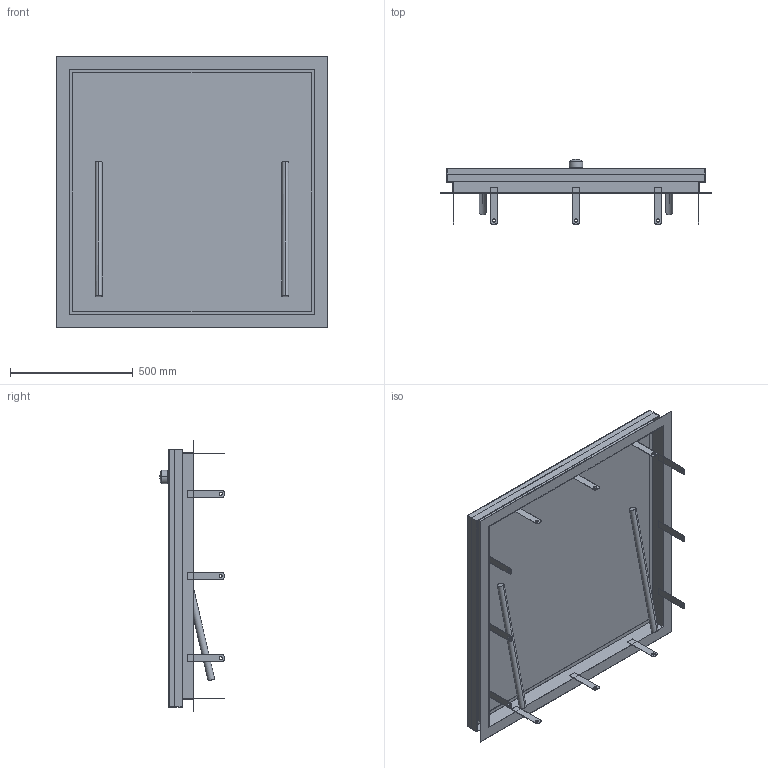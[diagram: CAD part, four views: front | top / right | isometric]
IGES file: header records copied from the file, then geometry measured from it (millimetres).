
Start section:  PTC IGES file: 52096099.igs
Global section: file name: 52096099.igs; native system: Creo Parametric by PTC Inc.; preprocessor: 2022162; author: wep; organization: Unknown; date: 20230620.135348; units: millimetre
Bounding box: 1100 x 264 x 1100 mm (x, y, z)
Surface area: 6113224.1 mm2 (no closed solid volume)
Topology: 0 solids, 0 shells, 148 faces, 750 edges, 748 vertices
Faces by surface type: bspline 102, revolution 46
